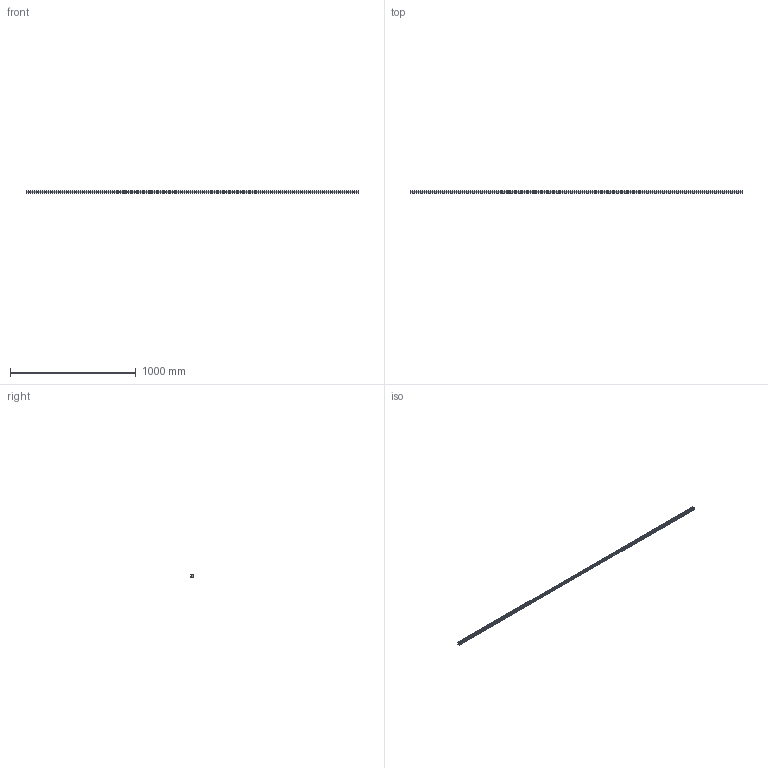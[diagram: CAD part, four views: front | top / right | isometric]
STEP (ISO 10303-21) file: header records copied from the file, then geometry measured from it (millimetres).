
FILE_DESCRIPTION (( 'STEP AP203' ), '1' );
FILE_NAME ('L1018.20R-2640.step', '2023-08-06T09:13:39', ( '' ), ( '' ), 'SwSTEP 2.0', 'SolidWorks 2019', '' );
FILE_SCHEMA (( 'CONFIG_CONTROL_DESIGN' ));
Length unit declared in the file: millimetre
Products named in the file (1): L1018.20R-2640
Bounding box: 2640 x 19.3 x 20 mm (x, y, z)
Volume: 837218.6 mm3; surface area: 223444.2 mm2
Topology: 1 solids, 1 shells, 425 faces, 961 edges, 538 vertices
Faces by surface type: cylinder 179, cone 176, plane 70
Entity records: 11294 total; most frequent: DIRECTION 2171, CARTESIAN_POINT 1837, ORIENTED_EDGE 1746, EDGE_CURVE 873, AXIS2_PLACEMENT_3D 872, VERTEX_POINT 538, EDGE_LOOP 513, CIRCLE 446
